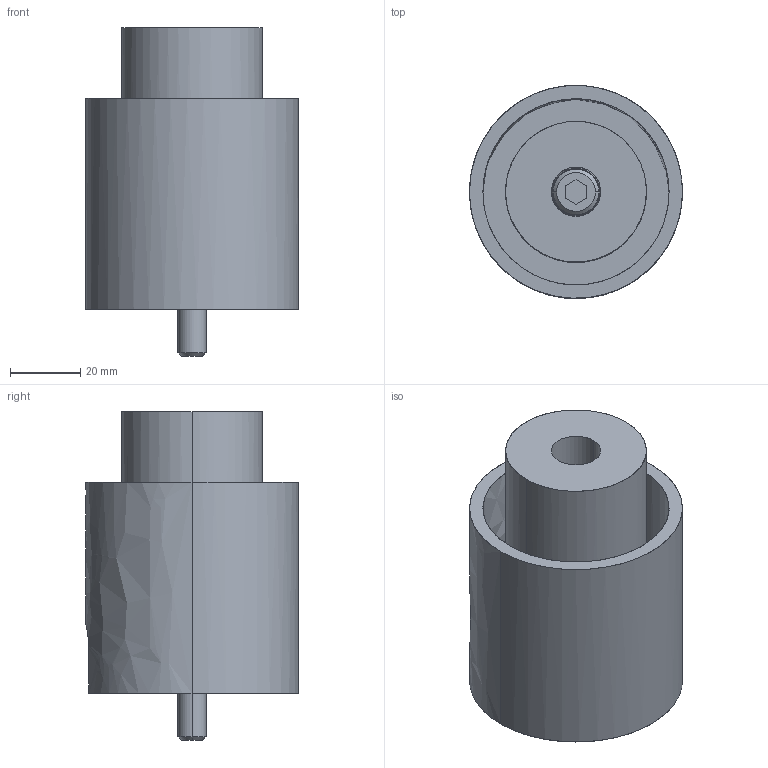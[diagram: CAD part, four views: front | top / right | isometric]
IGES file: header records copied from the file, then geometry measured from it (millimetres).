
Global section: file name: E:\UnigraphicsGraphicData\MISUMI_PRESS-PARTS\IGES\3d_phbtn40-80-60-r_07074_r00.igs; native system: NX V5.0; preprocessor: UGS NX IGES V5.0; author: MISUMI; date: 20110105.162249; units: millimetre
Bounding box: 60.5 x 60.5 x 93.4 mm (x, y, z)
Surface area: 46292.8 mm2 (no closed solid volume)
Topology: 0 solids, 0 shells, 50 faces, 392 edges, 392 vertices
Faces by surface type: bspline 50
